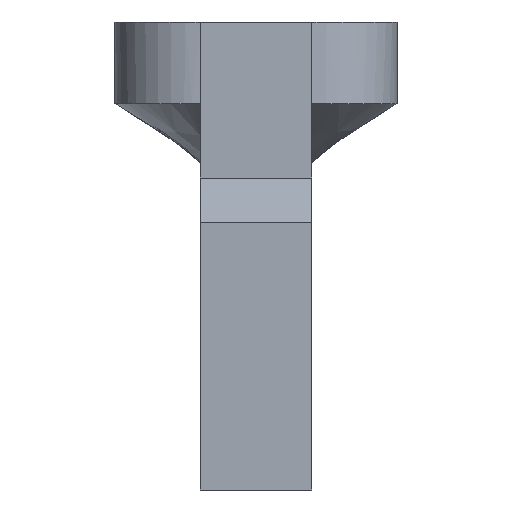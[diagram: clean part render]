
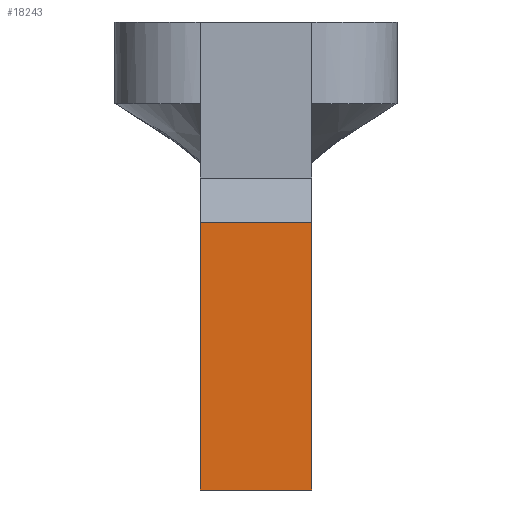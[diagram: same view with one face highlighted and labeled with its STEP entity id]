
A CAD part, left-side view. The second image highlights one B-rep face of the part: STEP entity #18243.
In plain terms, the highlighted planar face has unit normal (-1, 0, 0).
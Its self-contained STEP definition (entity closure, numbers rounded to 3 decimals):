
#152 = EDGE_CURVE ( 'NONE', #8891, #5712, #1374, .T. ) ;
#1374 = LINE ( 'NONE', #11206, #5540 ) ;
#1467 = CARTESIAN_POINT ( 'NONE',  ( -179., -99., -260.5 ) ) ;
#1595 = ORIENTED_EDGE ( 'NONE', *, *, #20549, .T. ) ;
#2023 = DIRECTION ( 'NONE',  ( 0., 1., 0. ) ) ;
#2203 = CARTESIAN_POINT ( 'NONE',  ( -179., -84., -260.5 ) ) ;
#2623 = DIRECTION ( 'NONE',  ( 0., -1., 0. ) ) ;
#3901 = LINE ( 'NONE', #14855, #11616 ) ;
#4520 = LINE ( 'NONE', #1467, #6595 ) ;
#5106 = AXIS2_PLACEMENT_3D ( 'NONE', #2203, #18749, #10646 ) ;
#5540 = VECTOR ( 'NONE', #2623, 1000. ) ;
#5712 = VERTEX_POINT ( 'NONE', #17017 ) ;
#5770 = FACE_OUTER_BOUND ( 'NONE', #6989, .T. ) ;
#6595 = VECTOR ( 'NONE', #11213, 1000. ) ;
#6989 = EDGE_LOOP ( 'NONE', ( #16447, #21079, #1595, #17718 ) ) ;
#8891 = VERTEX_POINT ( 'NONE', #9017 ) ;
#9017 = CARTESIAN_POINT ( 'NONE',  ( -179., -84., -260.5 ) ) ;
#9245 = EDGE_CURVE ( 'NONE', #5712, #21386, #4520, .T. ) ;
#10374 = VECTOR ( 'NONE', #18825, 1000. ) ;
#10529 = CARTESIAN_POINT ( 'NONE',  ( -179., -99., -224.5 ) ) ;
#10578 = CARTESIAN_POINT ( 'NONE',  ( -179., -84., -260.5 ) ) ;
#10646 = DIRECTION ( 'NONE',  ( 0., 0., 1. ) ) ;
#11206 = CARTESIAN_POINT ( 'NONE',  ( -179., -84., -260.5 ) ) ;
#11213 = DIRECTION ( 'NONE',  ( 0., 0., 1. ) ) ;
#11616 = VECTOR ( 'NONE', #2023, 1000. ) ;
#12160 = PLANE ( 'NONE',  #5106 ) ;
#12200 = CARTESIAN_POINT ( 'NONE',  ( -179., -84., -224.5 ) ) ;
#14855 = CARTESIAN_POINT ( 'NONE',  ( -179., -72.401, -224.5 ) ) ;
#16409 = VERTEX_POINT ( 'NONE', #12200 ) ;
#16447 = ORIENTED_EDGE ( 'NONE', *, *, #152, .T. ) ;
#17017 = CARTESIAN_POINT ( 'NONE',  ( -179., -99., -260.5 ) ) ;
#17718 = ORIENTED_EDGE ( 'NONE', *, *, #18121, .F. ) ;
#18121 = EDGE_CURVE ( 'NONE', #8891, #16409, #19184, .T. ) ;
#18243 = ADVANCED_FACE ( 'NONE', ( #5770 ), #12160, .T. ) ;
#18749 = DIRECTION ( 'NONE',  ( -1., 0., 0. ) ) ;
#18825 = DIRECTION ( 'NONE',  ( 0., 0., 1. ) ) ;
#19184 = LINE ( 'NONE', #10578, #10374 ) ;
#20549 = EDGE_CURVE ( 'NONE', #21386, #16409, #3901, .T. ) ;
#21079 = ORIENTED_EDGE ( 'NONE', *, *, #9245, .T. ) ;
#21386 = VERTEX_POINT ( 'NONE', #10529 ) ;
